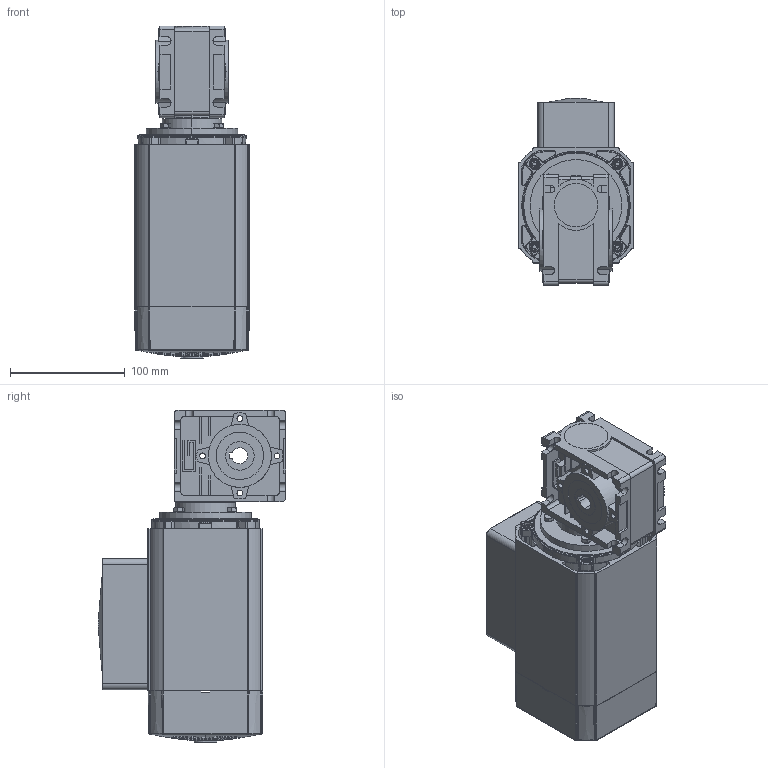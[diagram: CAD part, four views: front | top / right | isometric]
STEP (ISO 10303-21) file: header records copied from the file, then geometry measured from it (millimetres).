
FILE_DESCRIPTION (( 'STEP AP203' ), '1' );
FILE_NAME ('AC9060FC-RA3000T.STEP', '2008-06-30T20:53:09', ( 'eng-rjs' ), ( 'groschopp' ), 'SwSTEP 2.0', 'SolidWorks 2008', '' );
FILE_SCHEMA (( 'CONFIG_CONTROL_DESIGN' ));
Length unit declared in the file: inch
Products named in the file (1): AC9060FC-RA3000T
Bounding box: 100.43 x 163.46 x 289.68 mm (x, y, z)
Surface area: 268335.8 mm2 (no closed solid volume)
Topology: 0 solids, 33 shells, 1311 faces, 4130 edges, 2774 vertices
Faces by surface type: plane 785, cylinder 304, cone 93, torus 75, bspline 44, sphere 10
Entity records: 47899 total; most frequent: CARTESIAN_POINT 11043, DIRECTION 8204, ORIENTED_EDGE 7050, EDGE_CURVE 4122, AXIS2_PLACEMENT_3D 3117, VERTEX_POINT 2774, VECTOR 1970, LINE 1970
